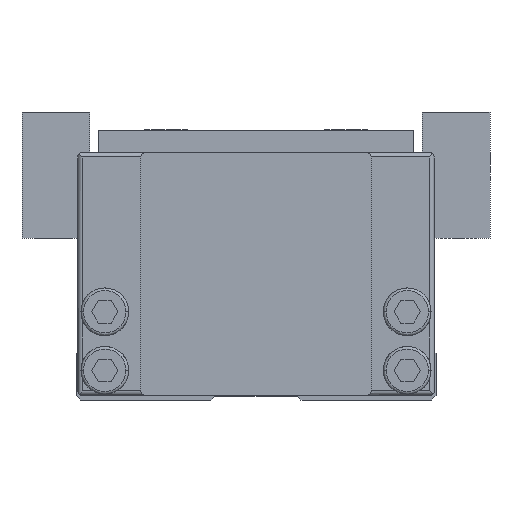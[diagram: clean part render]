
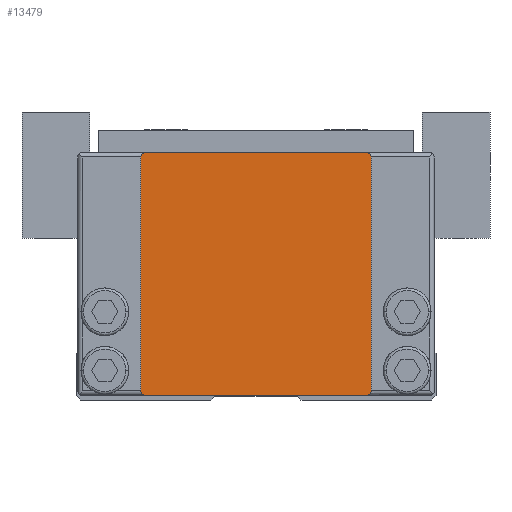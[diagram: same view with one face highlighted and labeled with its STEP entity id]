
A CAD part, front view. The second image highlights one B-rep face of the part: STEP entity #13479.
In plain terms, the highlighted planar face has unit normal (0, -1, 0).
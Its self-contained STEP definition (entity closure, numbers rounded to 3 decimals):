
#4935=VERTEX_POINT('',#14708);
#5955=EDGE_CURVE('',#10121,#6725,#15835,.T.);
#6725=VERTEX_POINT('',#16678);
#7245=VERTEX_POINT('',#17256);
#7675=EDGE_CURVE('',#6725,#10777,#17729,.T.);
#8429=EDGE_CURVE('',#7245,#11223,#18554,.T.);
#8535=VERTEX_POINT('',#18681);
#8641=EDGE_CURVE('',#4935,#9345,#18797,.T.);
#9345=VERTEX_POINT('',#19566);
#10121=VERTEX_POINT('',#20448);
#10731=EDGE_CURVE('',#9345,#8535,#21114,.T.);
#10777=VERTEX_POINT('',#21166);
#11223=VERTEX_POINT('',#21656);
#12029=EDGE_CURVE('',#8535,#10121,#22550,.T.);
#13479=ADVANCED_FACE('',(#24147),#24148,.T.);
#13491=EDGE_CURVE('',#11223,#4935,#24161,.T.);
#13993=EDGE_CURVE('',#10777,#7245,#24714,.T.);
#14708=CARTESIAN_POINT('',(12.3,0.0,0.5));
#15835=CIRCLE('',#27300,0.5);
#16678=CARTESIAN_POINT('',(-12.3,0.0,27.5));
#17256=CARTESIAN_POINT('',(12.8,0.0,27.0));
#17729=LINE('',#30130,#30131);
#18554=LINE('',#31423,#31424);
#18681=CARTESIAN_POINT('',(-12.8,0.0,1.0));
#18797=LINE('',#31794,#31795);
#19566=CARTESIAN_POINT('',(-12.3,0.0,0.5));
#20448=CARTESIAN_POINT('',(-12.8,0.0,27.0));
#21114=CIRCLE('',#35238,0.5);
#21166=CARTESIAN_POINT('',(12.3,0.0,27.5));
#21656=CARTESIAN_POINT('',(12.8,0.0,1.0));
#22550=LINE('',#37231,#37232);
#24147=FACE_OUTER_BOUND('',#39738,.T.);
#24148=PLANE('',#39739);
#24161=CIRCLE('',#39759,0.5);
#24714=CIRCLE('',#40605,0.5);
#27300=AXIS2_PLACEMENT_3D('',#43022,#43023,#43024);
#30130=CARTESIAN_POINT('',(12.3,0.0,27.5));
#30131=VECTOR('',#45033,1.0);
#31423=CARTESIAN_POINT('',(12.8,0.0,1.0));
#31424=VECTOR('',#45946,1.0);
#31794=CARTESIAN_POINT('',(-12.3,0.0,0.5));
#31795=VECTOR('',#46202,1.0);
#35238=AXIS2_PLACEMENT_3D('',#48830,#48831,#48832);
#37231=CARTESIAN_POINT('',(-12.8,0.0,27.0));
#37232=VECTOR('',#50567,1.0);
#39738=EDGE_LOOP('',(#52405,#52406,#52407,#52408,#52409,#52410,#52411,#52412));
#39739=AXIS2_PLACEMENT_3D('',#52413,#52414,#52415);
#39759=AXIS2_PLACEMENT_3D('',#52428,#52429,#52430);
#40605=AXIS2_PLACEMENT_3D('',#53065,#53066,#53067);
#43022=CARTESIAN_POINT('',(-12.3,0.0,27.0));
#43023=DIRECTION('',(0.0,1.0,-0.0));
#43024=DIRECTION('',(0.,0.0,1.0));
#45033=DIRECTION('',(1.0,0.0,0.0));
#45946=DIRECTION('',(-0.0,0.0,-1.0));
#46202=DIRECTION('',(-1.0,0.0,-0.0));
#48830=CARTESIAN_POINT('',(-12.3,0.0,1.));
#48831=DIRECTION('',(0.0,1.0,-0.0));
#48832=DIRECTION('',(-1.0,0.0,0.));
#50567=DIRECTION('',(0.0,0.0,1.0));
#52405=ORIENTED_EDGE('',*,*,#12029,.F.);
#52406=ORIENTED_EDGE('',*,*,#10731,.F.);
#52407=ORIENTED_EDGE('',*,*,#8641,.F.);
#52408=ORIENTED_EDGE('',*,*,#13491,.F.);
#52409=ORIENTED_EDGE('',*,*,#8429,.F.);
#52410=ORIENTED_EDGE('',*,*,#13993,.F.);
#52411=ORIENTED_EDGE('',*,*,#7675,.F.);
#52412=ORIENTED_EDGE('',*,*,#5955,.F.);
#52413=CARTESIAN_POINT('',(0.,0.0,14.0));
#52414=DIRECTION('',(0.0,-1.0,0.0));
#52415=DIRECTION('',(1.0,0.0,0.0));
#52428=CARTESIAN_POINT('',(12.3,0.0,1.));
#52429=DIRECTION('',(-0.0,1.0,0.0));
#52430=DIRECTION('',(0.0,0.0,-1.0));
#53065=CARTESIAN_POINT('',(12.3,0.0,27.0));
#53066=DIRECTION('',(-0.0,1.0,0.0));
#53067=DIRECTION('',(1.0,0.0,0.));
